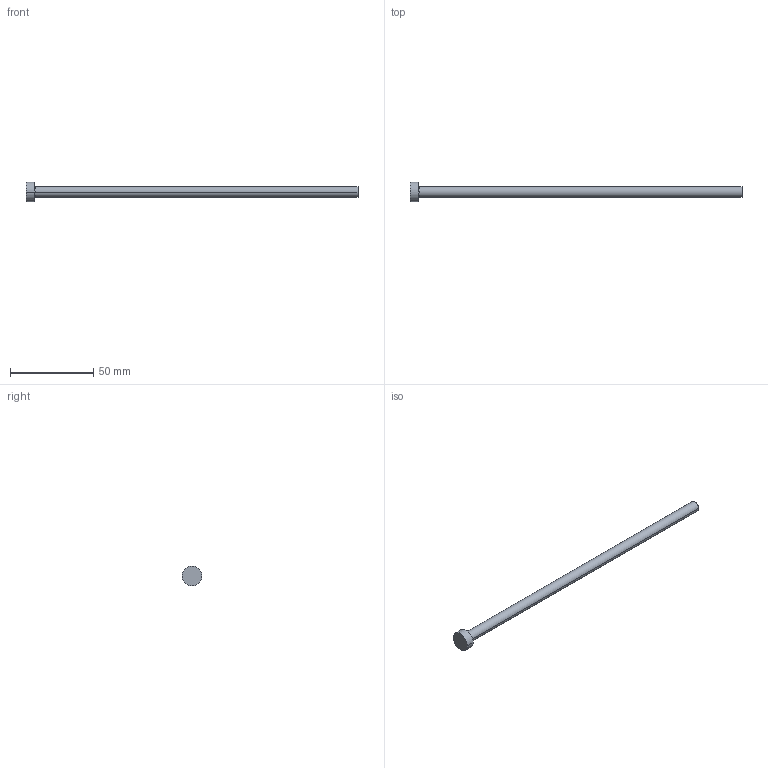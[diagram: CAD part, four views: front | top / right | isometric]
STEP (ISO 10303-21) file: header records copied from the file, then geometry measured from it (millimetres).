
FILE_DESCRIPTION (( 'STEP AP214' ), '1' );
FILE_NAME ('A-6,5x200.STEP', '2020-05-29T15:38:52', ( 'August' ), ( '' ), 'SwSTEP 2.0', 'SolidWorks 2018', '' );
FILE_SCHEMA (( 'AUTOMOTIVE_DESIGN' ));
Length unit declared in the file: millimetre
Products named in the file (1): A-6,5x200
Bounding box: 200 x 12 x 12 mm (x, y, z)
Volume: 7037.3 mm3; surface area: 4392.4 mm2
Topology: 1 solids, 1 shells, 9 faces, 16 edges, 10 vertices
Faces by surface type: cylinder 4, plane 3, torus 2
Entity records: 260 total; most frequent: DIRECTION 48, CARTESIAN_POINT 36, ORIENTED_EDGE 32, AXIS2_PLACEMENT_3D 22, EDGE_CURVE 16, CIRCLE 12, EDGE_LOOP 10, VERTEX_POINT 10
